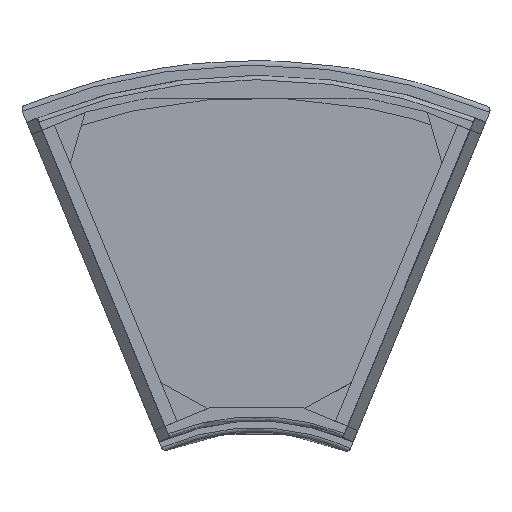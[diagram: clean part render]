
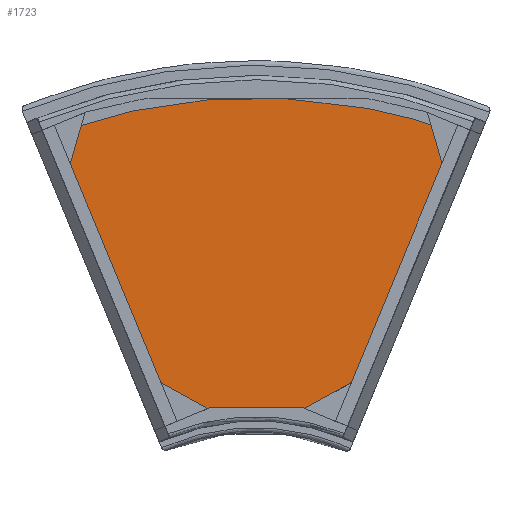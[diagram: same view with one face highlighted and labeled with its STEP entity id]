
A CAD part, front view. The second image highlights one B-rep face of the part: STEP entity #1723.
In plain terms, the highlighted planar face has unit normal (0, -1, 0).
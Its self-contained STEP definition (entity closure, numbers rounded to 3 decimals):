
#103=CIRCLE('',#1859,30.779);
#105=CIRCLE('',#1862,30.779);
#106=CIRCLE('',#1865,26.545);
#108=CIRCLE('',#1868,26.545);
#199=FACE_OUTER_BOUND('',#311,.T.);
#311=EDGE_LOOP('',(#1275,#1276,#1277,#1278,#1279,#1280,#1281,#1282));
#406=LINE('',#6177,#536);
#412=LINE('',#6315,#542);
#536=VECTOR('',#2067,1000.);
#542=VECTOR('',#2087,1000.);
#687=B_SPLINE_CURVE_WITH_KNOTS('',3,(#6149,#6150,#6151,#6152,#6153,#6154,
#6155,#6156,#6157,#6158,#6159,#6160,#6161),.UNSPECIFIED.,.F.,.F.,(4,1,1,
1,1,1,1,1,1,1,4),(-0.146,-0.117,-0.014,
0.089,0.294,0.5,0.706,
0.911,1.014,1.117,1.146),
 .UNSPECIFIED.);
#689=B_SPLINE_CURVE_WITH_KNOTS('',3,(#6230,#6231,#6232,#6233,#6234,#6235,
#6236,#6237,#6238,#6239,#6240,#6241,#6242,#6243,#6244,#6245,#6246,#6247,
#6248,#6249,#6250),.UNSPECIFIED.,.F.,.F.,(4,1,1,1,1,1,1,1,1,1,1,1,1,1,1,
1,1,1,4),(-0.247,-0.234,-0.221,-0.173,
-0.121,-0.017,0.086,0.19,
0.293,0.5,0.707,0.81,
0.914,1.017,1.121,1.173,1.221,
1.234,1.247),.UNSPECIFIED.);
#742=VERTEX_POINT('',#6109);
#743=VERTEX_POINT('',#6111);
#746=VERTEX_POINT('',#6118);
#747=VERTEX_POINT('',#6120);
#748=VERTEX_POINT('',#6176);
#750=VERTEX_POINT('',#6182);
#752=VERTEX_POINT('',#6229);
#754=VERTEX_POINT('',#6309);
#925=EDGE_CURVE('',#742,#743,#103,.T.);
#929=EDGE_CURVE('',#746,#747,#105,.T.);
#931=EDGE_CURVE('',#746,#743,#687,.T.);
#933=EDGE_CURVE('',#747,#748,#406,.T.);
#936=EDGE_CURVE('',#748,#750,#106,.T.);
#939=EDGE_CURVE('',#750,#752,#689,.T.);
#942=EDGE_CURVE('',#754,#752,#108,.T.);
#945=EDGE_CURVE('',#742,#754,#412,.T.);
#1275=ORIENTED_EDGE('',*,*,#931,.T.);
#1276=ORIENTED_EDGE('',*,*,#925,.F.);
#1277=ORIENTED_EDGE('',*,*,#945,.T.);
#1278=ORIENTED_EDGE('',*,*,#942,.T.);
#1279=ORIENTED_EDGE('',*,*,#939,.F.);
#1280=ORIENTED_EDGE('',*,*,#936,.F.);
#1281=ORIENTED_EDGE('',*,*,#933,.F.);
#1282=ORIENTED_EDGE('',*,*,#929,.F.);
#1645=PLANE('',#1872);
#1723=ADVANCED_FACE('',(#199),#1645,.F.);
#1859=AXIS2_PLACEMENT_3D('',#6112,#2054,#2055);
#1862=AXIS2_PLACEMENT_3D('',#6121,#2062,#2063);
#1865=AXIS2_PLACEMENT_3D('',#6183,#2072,#2073);
#1868=AXIS2_PLACEMENT_3D('',#6310,#2080,#2081);
#1872=AXIS2_PLACEMENT_3D('',#6318,#2091,#2092);
#2054=DIRECTION('center_axis',(0.,1.,0.));
#2055=DIRECTION('ref_axis',(0.,0.,
1.));
#2062=DIRECTION('center_axis',(0.,1.,0.));
#2063=DIRECTION('ref_axis',(0.,0.,
1.));
#2067=DIRECTION('',(-0.383,0.,0.924));
#2072=DIRECTION('center_axis',(0.,1.,0.));
#2073=DIRECTION('ref_axis',(0.,0.,
1.));
#2080=DIRECTION('center_axis',(0.,-1.,0.));
#2081=DIRECTION('ref_axis',(0.,0.,1.));
#2087=DIRECTION('',(0.383,0.,0.924));
#2091=DIRECTION('center_axis',(0.,1.,0.));
#2092=DIRECTION('ref_axis',(0.,0.,1.));
#6109=CARTESIAN_POINT('',(213.961,0.,14455.937));
#6111=CARTESIAN_POINT('',(176.579,0.,14438.266));
#6112=CARTESIAN_POINT('Origin',(185.525,0.,
14467.716));
#6118=CARTESIAN_POINT('',(-176.535,0.,14438.279));
#6120=CARTESIAN_POINT('',(-213.961,0.,14455.937));
#6121=CARTESIAN_POINT('Origin',(-185.525,0.,
14467.716));
#6149=CARTESIAN_POINT('Ctrl Pts',(-176.535,0.,
14438.279));
#6150=CARTESIAN_POINT('Ctrl Pts',(-173.988,0.,
14439.061));
#6151=CARTESIAN_POINT('Ctrl Pts',(-162.456,0.,
14442.517));
#6152=CARTESIAN_POINT('Ctrl Pts',(-141.672,0.,
14448.073));
#6153=CARTESIAN_POINT('Ctrl Pts',(-104.663,0.,
14456.12));
#6154=CARTESIAN_POINT('Ctrl Pts',(-57.445,0.,
14462.93));
#6155=CARTESIAN_POINT('Ctrl Pts',(0.,0.,
14465.678));
#6156=CARTESIAN_POINT('Ctrl Pts',(57.445,0.,
14462.93));
#6157=CARTESIAN_POINT('Ctrl Pts',(104.663,0.,
14456.12));
#6158=CARTESIAN_POINT('Ctrl Pts',(141.672,0.,
14448.073));
#6159=CARTESIAN_POINT('Ctrl Pts',(162.471,0.,
14442.513));
#6160=CARTESIAN_POINT('Ctrl Pts',(174.017,0.,
14439.052));
#6161=CARTESIAN_POINT('Ctrl Pts',(176.579,0.,
14438.266));
#6176=CARTESIAN_POINT('',(-460.792,0.,15051.84));
#6177=CARTESIAN_POINT('',(4928.319,0.,2041.376));
#6182=CARTESIAN_POINT('',(-445.208,0.,15086.991));
#6183=CARTESIAN_POINT('Origin',(-436.268,0.,
15061.998));
#6229=CARTESIAN_POINT('',(445.208,0.,15086.992));
#6230=CARTESIAN_POINT('Ctrl Pts',(-445.208,0.,
15086.991));
#6231=CARTESIAN_POINT('Ctrl Pts',(-442.788,0.,
15087.857));
#6232=CARTESIAN_POINT('Ctrl Pts',(-437.941,0.,
15089.575));
#6233=CARTESIAN_POINT('Ctrl Pts',(-423.927,0.,
15094.45));
#6234=CARTESIAN_POINT('Ctrl Pts',(-402.472,0.,
15101.58));
#6235=CARTESIAN_POINT('Ctrl Pts',(-363.478,0.,
15113.561));
#6236=CARTESIAN_POINT('Ctrl Pts',(-313.226,0.,
15127.084));
#6237=CARTESIAN_POINT('Ctrl Pts',(-251.855,0.,
15140.515));
#6238=CARTESIAN_POINT('Ctrl Pts',(-189.671,0.,
15151.049));
#6239=CARTESIAN_POINT('Ctrl Pts',(-105.845,0.,
15161.163));
#6240=CARTESIAN_POINT('Ctrl Pts',(0.,0.,
15166.259));
#6241=CARTESIAN_POINT('Ctrl Pts',(105.845,0.,
15161.163));
#6242=CARTESIAN_POINT('Ctrl Pts',(189.671,0.,
15151.049));
#6243=CARTESIAN_POINT('Ctrl Pts',(251.855,0.,
15140.515));
#6244=CARTESIAN_POINT('Ctrl Pts',(313.226,0.,
15127.084));
#6245=CARTESIAN_POINT('Ctrl Pts',(363.478,0.,
15113.561));
#6246=CARTESIAN_POINT('Ctrl Pts',(402.472,0.,
15101.58));
#6247=CARTESIAN_POINT('Ctrl Pts',(423.927,0.,
15094.45));
#6248=CARTESIAN_POINT('Ctrl Pts',(437.941,0.,
15089.575));
#6249=CARTESIAN_POINT('Ctrl Pts',(442.788,0.,
15087.857));
#6250=CARTESIAN_POINT('Ctrl Pts',(445.208,0.,
15086.992));
#6309=CARTESIAN_POINT('',(460.832,0.,15051.938));
#6310=CARTESIAN_POINT('Origin',(436.267,0.,
15061.998));
#6315=CARTESIAN_POINT('',(-4928.319,0.,2041.376));
#6318=CARTESIAN_POINT('Origin',(0.,0.,0.));
